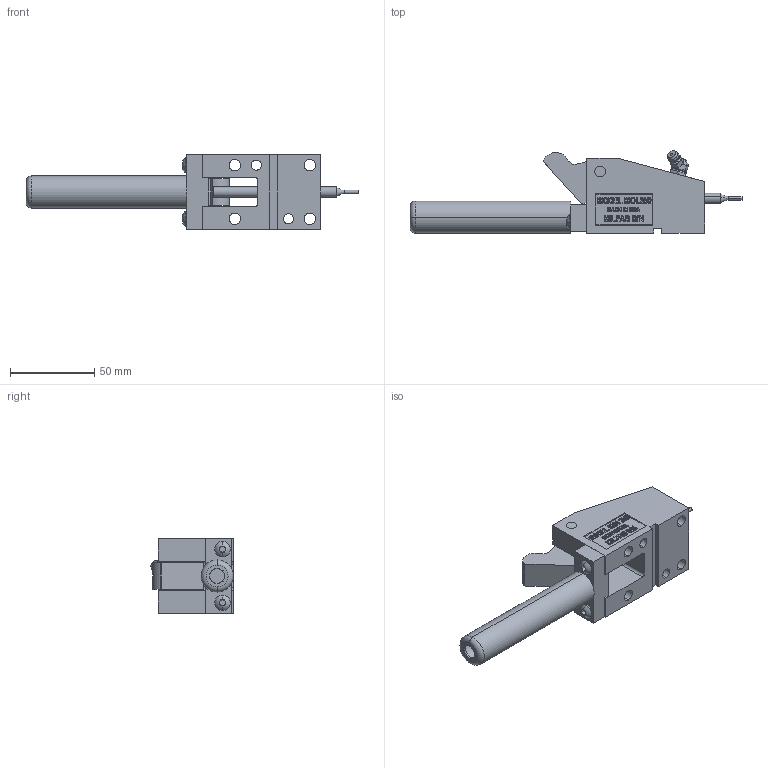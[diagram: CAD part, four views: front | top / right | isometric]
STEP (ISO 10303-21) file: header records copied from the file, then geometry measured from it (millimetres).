
FILE_DESCRIPTION (( 'STEP AP214' ), '1' );
FILE_NAME ('MOL25045-O.STEP', '2014-01-07T22:22:00', ( 'user' ), ( '' ), 'SwSTEP 2.0', 'SolidWorks 2009', '' );
FILE_SCHEMA (( 'AUTOMOTIVE_DESIGN' ));
Length unit declared in the file: inch
Products named in the file (1): MOL25045-O
Bounding box: 196.85 x 48.87 x 44.45 mm (x, y, z)
Surface area: 41663.9 mm2 (no closed solid volume)
Topology: 0 solids, 10 shells, 505 faces, 1481 edges, 989 vertices
Faces by surface type: plane 301, bspline 95, cylinder 72, torus 24, cone 13
Entity records: 28823 total; most frequent: CARTESIAN_POINT 9631, ORIENTED_EDGE 2711, DIRECTION 2203, EDGE_CURVE 1479, VERTEX_POINT 989, LINE 983, VECTOR 983, AXIS2_PLACEMENT_3D 610
